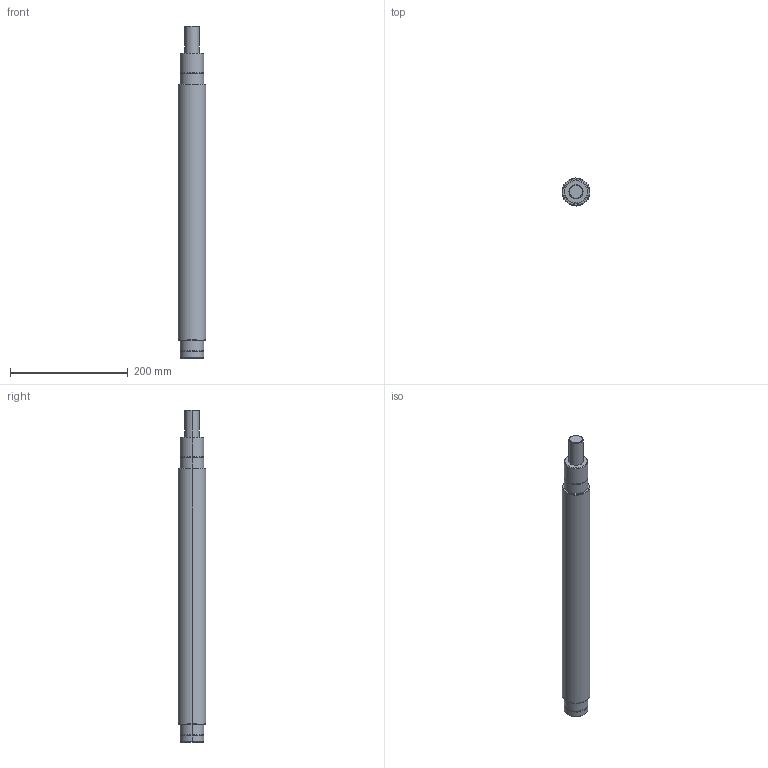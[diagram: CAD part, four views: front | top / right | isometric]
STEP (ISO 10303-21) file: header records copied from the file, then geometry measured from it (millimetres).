
FILE_DESCRIPTION (( 'STEP AP203' ), '1' );
FILE_NAME ('YWSD-2026-03-01-02=003 唅蛌粣.STEP', '2026-07-24T07:31:21', ( 'Windows 蚚誧' ), ( '' ), 'SwSTEP 2.0', 'SolidWorks 2024', '' );
FILE_SCHEMA (( 'CONFIG_CONTROL_DESIGN' ));
Length unit declared in the file: millimetre
Products named in the file (1): YWSD-2026-03-01-02=003 旋转轴
Bounding box: 47 x 47 x 562.8 mm (x, y, z)
Volume: 848413.8 mm3; surface area: 86512 mm2
Topology: 1 solids, 1 shells, 45 faces, 93 edges, 58 vertices
Faces by surface type: cylinder 18, plane 14, cone 13
Entity records: 1281 total; most frequent: DIRECTION 234, CARTESIAN_POINT 203, ORIENTED_EDGE 186, AXIS2_PLACEMENT_3D 97, EDGE_CURVE 93, VERTEX_POINT 58, EDGE_LOOP 53, CIRCLE 51
